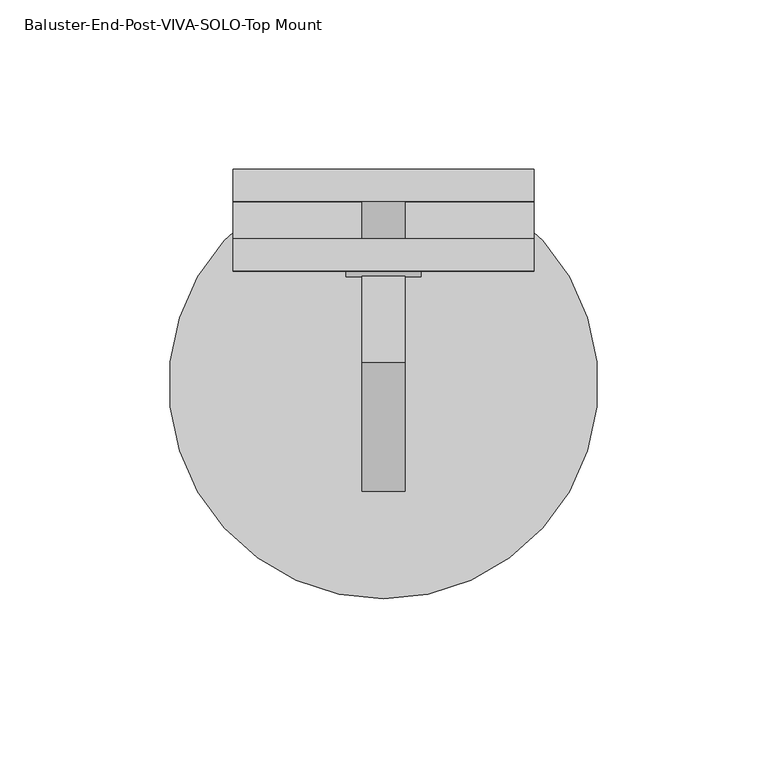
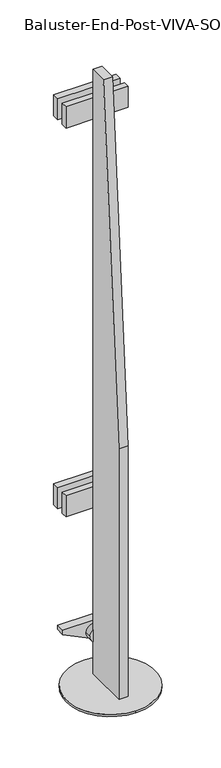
"""IFC4 building model written with IfcOpenShell, lengths in millimetres: proxy geometry, Baluster-End-Post-VIVA-SOLO-Top Mount : CORED INTO CONCRETE_TOP MOUNT FOLD_STRAIGHT."""

from ifc_helpers import new_model, si_unit, point, frame, frame_2d, origin, place, context, project, spatial, polyline, circle_curve, trimmed, segment, composite_curve, outline, extrude, source, transform, mapped, element, save


def baluster_end_post_viva_solo_top_mount_e69dec62(model_context):
    return source(origin(), model_context, "Body", "SweptSolid", [
        extrude(outline(composite_curve([segment(trimmed(circle_curve(frame_2d((268.5208758, -152.4)), 6.35), [point((268.5208758, -146.05))], [point((268.5208758, -158.75))], False, "CARTESIAN"), True, "CONTINUOUS"), segment(trimmed(circle_curve(frame_2d((268.5208758, -152.4)), 6.35), [point((268.5208758, -158.75))], [point((268.5208758, -146.05))], False, "CARTESIAN"), True, "CONTINUOUS")], self_intersect=False)), frame((0.0, -42.5925389, 0.0), z_axis=(0.0, 1.0, 0.0), x_axis=(0.0, 0.0, 1.0)), (0.0, 0.0, 1.0), 12.7),
        extrude(outline(composite_curve([segment(trimmed(circle_curve(frame_2d((854.776764, -152.4)), 6.35), [point((854.776764, -146.05))], [point((854.776764, -158.75))], False, "CARTESIAN"), True, "CONTINUOUS"), segment(trimmed(circle_curve(frame_2d((854.776764, -152.4)), 6.35), [point((854.776764, -158.75))], [point((854.776764, -146.05))], False, "CARTESIAN"), True, "CONTINUOUS")], self_intersect=False)), frame((0.0, -42.5925389, 0.0), z_axis=(0.0, 1.0, 0.0), x_axis=(0.0, 0.0, 1.0)), (0.0, 0.0, 1.0), 12.7),
        extrude(outline(composite_curve([segment(trimmed(circle_curve(frame_2d((60.8777263, -152.4)), 11.1125), [point((60.8777263, -141.2875))], [point((60.8777263, -163.5125))], False, "CARTESIAN"), True, "CONTINUOUS"), segment(trimmed(circle_curve(frame_2d((60.8777263, -152.4)), 11.1125), [point((60.8777263, -163.5125))], [point((60.8777263, -141.2875))], False, "CARTESIAN"), True, "CONTINUOUS")], self_intersect=False)), frame((0.0, -52.1175389, 0.0), z_axis=(0.0, 1.0, 0.0), x_axis=(0.0, 0.0, 1.0)), (0.0, 0.0, 1.0), 25.4),
        extrude(outline(polyline([(-52.1175389, 914.8205071), (-52.1175389, 0.4205071), (-115.6175389, 0.4205071), (-115.6175389, 381.4205071), (-77.5175389, 914.8205071), (-52.1175389, 914.8205071)])), frame((-158.75, 0.0, 0.0), z_axis=(1.0, 0.0, 0.0), x_axis=(0.0, 1.0, 0.0)), (0.0, 0.0, 1.0), 12.7),
        extrude(outline(polyline([(-196.85, -20.3675389), (-107.95, -20.3675389), (-107.95, -29.8925389), (-196.85, -29.8925389), (-196.85, -20.3675389)])), frame((0.0, 0.0, 838.7824344), z_axis=(0.0, 0.0, 1.0), x_axis=(1.0, 0.0, 0.0)), (0.0, 0.0, 1.0), 31.75),
        extrude(outline(polyline([(-196.85, -20.3675389), (-107.95, -20.3675389), (-107.95, -29.8925389), (-196.85, -29.8925389), (-196.85, -20.3675389)])), frame((0.0, 0.0, 252.4484609), z_axis=(0.0, 0.0, 1.0), x_axis=(1.0, 0.0, 0.0)), (0.0, 0.0, 1.0), 31.75),
        extrude(outline(polyline([(70.3302675, -107.95), (76.6802675, -107.95), (76.6802675, -196.85), (70.3302675, -196.85), (48.4156188, -152.4), (70.3302675, -107.95)])), frame((0.0, -42.5925389, 0.0), z_axis=(0.0, 1.0, 0.0), x_axis=(0.0, 0.0, 1.0)), (0.0, 0.0, 1.0), 12.7),
        extrude(outline(polyline([(-196.85, -40.984781), (-107.95, -40.984781), (-107.95, -50.509781), (-196.85, -50.509781), (-196.85, -40.984781)])), frame((0.0, 0.0, 838.7824344), z_axis=(0.0, 0.0, 1.0), x_axis=(1.0, 0.0, 0.0)), (0.0, 0.0, 1.0), 31.75),
        extrude(outline(polyline([(-196.85, -40.984781), (-107.95, -40.984781), (-107.95, -50.509781), (-196.85, -50.509781), (-196.85, -40.984781)])), frame((0.0, 0.0, 252.4484609), z_axis=(0.0, 0.0, 1.0), x_axis=(1.0, 0.0, 0.0)), (0.0, 0.0, 1.0), 31.75),
        extrude(outline(composite_curve([segment(trimmed(circle_curve(frame_2d((-152.4, -83.8675389)), 63.5), [point((-152.4, -147.3675389))], [point((-152.4, -20.3675389))], False, "CARTESIAN"), True, "CONTINUOUS"), segment(trimmed(circle_curve(frame_2d((-152.4, -83.8675389)), 63.5), [point((-152.4, -20.3675389))], [point((-152.4, -147.3675389))], False, "CARTESIAN"), True, "CONTINUOUS")], self_intersect=False)), frame((0.0, 0.0, 0.4205071), z_axis=(0.0, 0.0, 1.0), x_axis=(1.0, 0.0, 0.0)), (0.0, 0.0, 1.0), 3.175),
    ])


if __name__ == "__main__":
    model = new_model("IFC4")
    model_context = context("Model", 3, world=origin())
    ifc_project = project(units=[si_unit("LENGTHUNIT", "METRE", prefix="MILLI")], contexts=[model_context])
    site = spatial("IfcSite", under=ifc_project)
    building = spatial("IfcBuilding", under=site)
    placement = place(None, origin())
    baluster_end_post_viva_solo_top_mount_shape = baluster_end_post_viva_solo_top_mount_e69dec62(model_context)
    element("IfcBuildingElementProxy", 1, Name="Baluster-End-Post-VIVA-SOLO-Top Mount : CORED INTO CONCRETE_TOP MOUNT FOLD_STRAIGHT", ObjectType="Baluster-End-Post-VIVA-SOLO-Top Mount : CORED INTO CONCRETE_TOP MOUNT FOLD_STRAIGHT", at=placement, inside=building, context=model_context, shape_type="MappedRepresentation", body=[
        mapped(baluster_end_post_viva_solo_top_mount_shape, transform((0.0, 0.0, 0.0), x_axis=(1.0, 0.0, 0.0), y_axis=(0.0, 1.0, 0.0), z_axis=(0.0, 0.0, 1.0))),
    ])
    save(model, "model.ifc")
